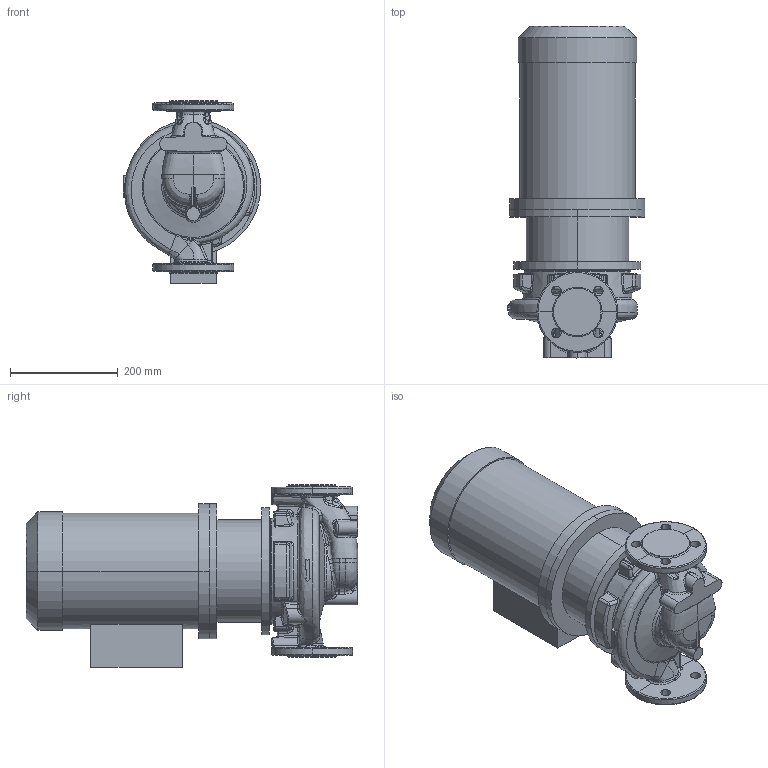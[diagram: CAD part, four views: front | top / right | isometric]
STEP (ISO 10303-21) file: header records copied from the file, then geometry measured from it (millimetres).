
FILE_DESCRIPTION (( 'STEP AP214' ), '1' );
FILE_NAME ('KRL 40-160-2-4.STEP', '2026-03-18T06:35:17', ( '' ), ( '' ), 'SwSTEP 2.0', 'SolidWorks 2016', '' );
FILE_SCHEMA (( 'AUTOMOTIVE_DESIGN' ));
Length unit declared in the file: millimetre
Products named in the file (1): KRL 40-160-2-4
Bounding box: 255 x 615.3 x 338 mm (x, y, z)
Volume: 23157155.6 mm3; surface area: 941813.4 mm2
Topology: 4 solids, 4 shells, 713 faces, 1716 edges, 1000 vertices
Faces by surface type: bspline 353, cylinder 126, plane 97, torus 52, cone 45, sphere 40
Entity records: 82362 total; most frequent: CARTESIAN_POINT 60963, ORIENTED_EDGE 3374, DIRECTION 2051, EDGE_CURVE 1687, VERTEX_POINT 1000, AXIS2_PLACEMENT_3D 902, B_SPLINE_CURVE_WITH_KNOTS 828, EDGE_LOOP 747
